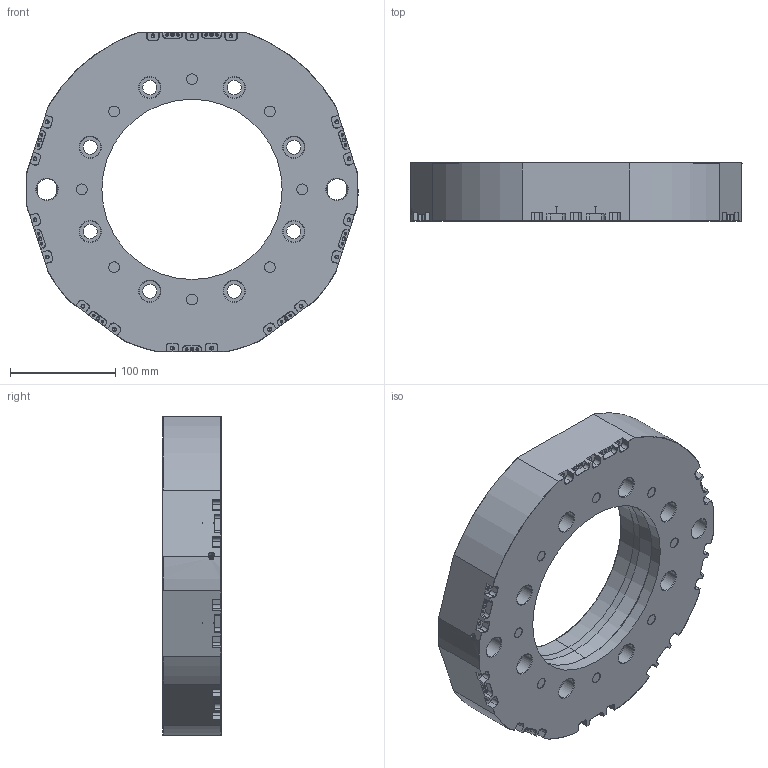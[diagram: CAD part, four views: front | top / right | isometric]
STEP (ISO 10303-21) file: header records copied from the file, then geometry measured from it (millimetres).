
FILE_DESCRIPTION (( 'STEP AP203' ), '1' );
FILE_NAME ('TSKP-T700-00 萵攫掛极.STEP', '2021-08-12T09:34:57', ( '' ), ( '' ), 'SwSTEP 2.0', 'SolidWorks 2018', '' );
FILE_SCHEMA (( 'CONFIG_CONTROL_DESIGN' ));
Length unit declared in the file: millimetre
Products named in the file (1): TSKP-T700-00 萵攫掛极
Bounding box: 314.81 x 55 x 303 mm (x, y, z)
Volume: 2711883.3 mm3; surface area: 250673 mm2
Topology: 1 solids, 12 shells, 1246 faces, 3008 edges, 1767 vertices
Faces by surface type: cylinder 416, plane 383, cone 357, torus 90
Entity records: 35933 total; most frequent: CARTESIAN_POINT 6993, DIRECTION 6382, ORIENTED_EDGE 5800, EDGE_CURVE 2900, AXIS2_PLACEMENT_3D 2426, VERTEX_POINT 1767, VECTOR 1530, LINE 1530
